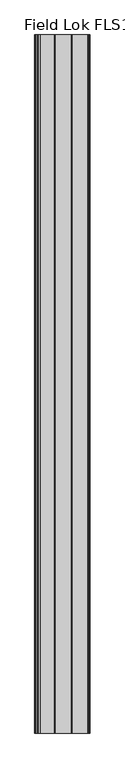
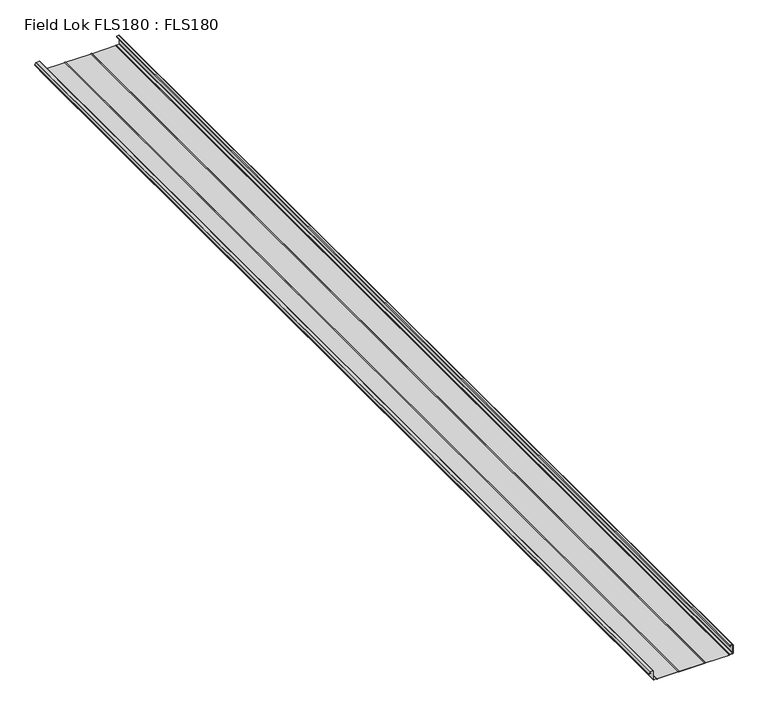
"""IFC4 building model written with IfcOpenShell, lengths in millimetres: proxy geometry, Field Lok FLS180 : FLS180."""

from ifc_helpers import new_model, si_unit, frame, origin, place, context, project, spatial, polyline, circle_curve, source, transform, mapped, element, save
from ifc_brep_helpers import plane_surface, cylinder_surface, revolved_surface, advanced_brep


def field_lok_fls180_fls180_1863bc29(model_context):
    return source(origin(), model_context, "Body", "AdvancedBrep", [
        advanced_brep(
        [(13.2744355, 1524.0, 48.2142317), (3.0357053, 1524.0, 43.8681486), (0.2209136, 1524.0, 46.8343201), (6.1927473, 1524.0, 59.0783936), (6.9061651, 1524.0, 59.5241865), (25.9087681, 1524.0, 59.5241865), (27.2978306, 1524.0, 58.135124), (27.2978306, 1524.0, 4.1479031), (27.8931431, 1524.0, 3.5525906), (45.6576863, 1524.0, 3.5525906), (46.6241296, 1524.0, 3.1522766), (48.9353249, 1524.0, 0.8410814), (170.5910838, 1524.0, 0.8410814), (177.8354735, 1524.0, 0.8410814), (320.9824289, 1524.0, 0.8410814), (328.2268187, 1524.0, 0.8410814), (461.9296726, 1524.0, 0.8410814), (464.1577379, 1524.0, 3.0691467), (465.1241812, 1524.0, 3.4694606), (481.0743032, 1524.0, 3.4694606), (484.2225216, 1524.0, 6.5567881), (484.2225216, 1524.0, 54.0982109), (482.0987707, 1524.0, 56.1746305), (470.5314259, 1524.0, 56.2219618), (468.8091061, 1524.0, 49.7941766), (468.0424025, 1524.0, 49.9996143), (469.9223601, 1524.0, 57.0157118), (482.0987707, 1524.0, 57.0157118), (485.0162716, 1524.0, 54.0982109), (485.0162716, 1524.0, 6.5494722), (481.0743032, 1524.0, 2.6757106), (464.9537705, 1524.0, 2.6757106), (462.6783738, 1524.0, 0.4003139), (461.7119305, 1524.0, 0.0), (327.7243243, 1524.0, 0.0), (321.4849233, 1524.0, 0.0), (177.3329792, 1524.0, 0.0), (171.0935781, 1524.0, 0.0), (49.1623061, 1524.0, 0.0), (48.1800906, 1524.0, 0.406847), (45.828097, 1524.0, 2.7588406), (27.8931431, 1524.0, 2.7588406), (26.5040806, 1524.0, 4.1479031), (26.5040806, 1524.0, 58.135124), (25.9087681, 1524.0, 58.7304365), (6.9061651, 1524.0, 58.7304365), (0.9343314, 1524.0, 46.486363), (2.7255625, 1524.0, 44.5987993), (12.87458, 1524.0, 48.9068017), (13.2744355, -4572.0, 48.2142317), (12.87458, -4572.0, 48.9068017), (2.7255625, -4572.0, 44.5987993), (0.9343314, -4572.0, 46.486363), (6.9061651, -4572.0, 58.7304365), (25.9087681, -4572.0, 58.7304365), (26.5040806, -4572.0, 58.135124), (26.5040806, -4572.0, 4.1479031), (27.8931431, -4572.0, 2.7588406), (45.828097, -4572.0, 2.7588406), (48.1800906, -4572.0, 0.406847), (49.1623061, -4572.0, 0.0), (171.0935781, -4572.0, 0.0), (177.3329792, -4572.0, 0.0), (321.4849233, -4572.0, 0.0), (327.7243243, -4572.0, 0.0), (461.7119305, -4572.0, 0.0), (462.6783738, -4572.0, 0.4003139), (464.9537705, -4572.0, 2.6757106), (481.0743032, -4572.0, 2.6757106), (485.0162716, -4572.0, 6.5494722), (485.0162716, -4572.0, 54.0982109), (482.0987707, -4572.0, 57.0157118), (469.9223601, -4572.0, 57.0157118), (468.0424025, -4572.0, 49.9996143), (468.8091061, -4572.0, 49.7941766), (470.5314259, -4572.0, 56.2219618), (482.0987707, -4572.0, 56.2219618), (484.1751903, -4572.0, 54.0982109), (484.2225216, -4572.0, 6.5567881), (481.0743032, -4572.0, 3.4694606), (465.1241812, -4572.0, 3.4694606), (464.1577379, -4572.0, 3.0691467), (461.9296726, -4572.0, 0.8410814), (328.2268187, -4572.0, 0.8410814), (320.9824289, -4572.0, 0.8410814), (177.8354735, -4572.0, 0.8410814), (170.5910838, -4572.0, 0.8410814), (48.9353249, -4572.0, 0.8410814), (46.6241296, -4572.0, 3.1522766), (45.6576863, -4572.0, 3.5525906), (27.8931431, -4572.0, 3.5525906), (27.2978306, -4572.0, 4.1479031), (27.2978306, -4572.0, 58.135124), (25.9087681, -4572.0, 59.5241865), (6.9061651, -4572.0, 59.5241865), (6.1927473, -4572.0, 59.0783936), (0.2209136, -4572.0, 46.8343201), (3.0357053, -4572.0, 43.8681486)],
        [
            (0, 1),
            (1, 2, circle_curve(frame((2.1828125, 1524.0, 45.8774381), z_axis=(0.0, 1.0, 0.0), x_axis=(1.0, 0.0, 0.0)), 2.1828125)),
            (2, 3),
            (3, 4, circle_curve(frame((6.9061651, 1524.0, 58.7304365), z_axis=(0.0, 1.0, 0.0), x_axis=(1.0, 0.0, 0.0)), 0.79375)),
            (4, 5),
            (5, 6, circle_curve(frame((25.9087681, 1524.0, 58.135124), z_axis=(0.0, 1.0, 0.0), x_axis=(1.0, 0.0, 0.0)), 1.3890625)),
            (6, 7),
            (7, 8, circle_curve(frame((27.8931431, 1524.0, 4.1479031), z_axis=(0.0, -1.0, 0.0), x_axis=(1.0, 0.0, 0.0)), 0.5953125)),
            (8, 9),
            (9, 10, circle_curve(frame((45.6576863, 1524.0, 2.1858334), z_axis=(0.0, 1.0, 0.0), x_axis=(1.0, 0.0, 0.0)), 1.3667572)),
            (10, 11),
            (11, 12),
            (12, 13, circle_curve(frame((174.2132786, 1524.0, -1.0449846), z_axis=(0.0, 1.0, 0.0), x_axis=(1.0, 0.0, 0.0)), 4.0838145)),
            (13, 14),
            (14, 15, circle_curve(frame((324.6046238, 1524.0, -1.0449846), z_axis=(0.0, 1.0, 0.0), x_axis=(1.0, 0.0, 0.0)), 4.0838145)),
            (15, 16),
            (16, 17),
            (17, 18, circle_curve(frame((465.1241812, 1524.0, 2.1027034), z_axis=(0.0, 1.0, 0.0), x_axis=(1.0, 0.0, 0.0)), 1.3667572)),
            (18, 19),
            (19, 20, circle_curve(frame((481.0743032, 1524.0, 6.6182795), z_axis=(0.0, -1.0, 0.0), x_axis=(1.0, 0.0, 0.0)), 3.1488189)),
            (20, 21),
            (21, 22, circle_curve(frame((482.0987707, 1524.0, 54.0982109), z_axis=(0.0, -1.0, 0.0), x_axis=(1.0, 0.0, 0.0)), 2.0764196)),
            (22, 23),
            (23, 24),
            (24, 25),
            (25, 26),
            (26, 27),
            (27, 28, circle_curve(frame((482.0987707, 1524.0, 54.0982109), z_axis=(0.0, 1.0, 0.0), x_axis=(1.0, 0.0, 0.0)), 2.917501)),
            (28, 29),
            (29, 30, circle_curve(frame((481.0743032, 1524.0, 6.6182795), z_axis=(0.0, 1.0, 0.0), x_axis=(1.0, 0.0, 0.0)), 3.9425689)),
            (30, 31),
            (31, 32),
            (32, 33, circle_curve(frame((461.7119305, 1524.0, 1.3667572), z_axis=(0.0, 1.0, 0.0), x_axis=(1.0, 0.0, 0.0)), 1.3667572)),
            (33, 34),
            (34, 35, circle_curve(frame((324.6046238, 1524.0, -1.0449846), z_axis=(0.0, -1.0, 0.0), x_axis=(1.0, 0.0, 0.0)), 3.2900645)),
            (35, 36),
            (36, 37, circle_curve(frame((174.2132786, 1524.0, -1.0449846), z_axis=(0.0, -1.0, 0.0), x_axis=(1.0, 0.0, 0.0)), 3.2900645)),
            (37, 38),
            (38, 39, circle_curve(frame((49.1623061, 1524.0, 1.3890625), z_axis=(0.0, 1.0, 0.0), x_axis=(1.0, 0.0, 0.0)), 1.3890625)),
            (39, 40),
            (40, 41),
            (41, 42, circle_curve(frame((27.8931431, 1524.0, 4.1479031), z_axis=(0.0, 1.0, 0.0), x_axis=(1.0, 0.0, 0.0)), 1.3890625)),
            (42, 43),
            (43, 44, circle_curve(frame((25.9087681, 1524.0, 58.135124), z_axis=(0.0, -1.0, 0.0), x_axis=(1.0, 0.0, 0.0)), 0.5953125)),
            (44, 45),
            (45, 46),
            (46, 47, circle_curve(frame((2.1828125, 1524.0, 45.8774381), z_axis=(0.0, -1.0, 0.0), x_axis=(1.0, 0.0, 0.0)), 1.3890625)),
            (47, 48),
            (48, 0),
            (49, 50),
            (50, 51),
            (51, 52, circle_curve(frame((2.1828125, -4572.0, 45.8774381), z_axis=(0.0, 1.0, 0.0), x_axis=(1.0, 0.0, 0.0)), 1.3890625)),
            (52, 53),
            (53, 54),
            (54, 55, circle_curve(frame((25.9087681, -4572.0, 58.135124), z_axis=(0.0, 1.0, 0.0), x_axis=(1.0, 0.0, 0.0)), 0.5953125)),
            (55, 56),
            (56, 57, circle_curve(frame((27.8931431, -4572.0, 4.1479031), z_axis=(0.0, -1.0, 0.0), x_axis=(1.0, 0.0, 0.0)), 1.3890625)),
            (57, 58),
            (58, 59),
            (59, 60, circle_curve(frame((49.1623061, -4572.0, 1.3890625), z_axis=(0.0, -1.0, 0.0), x_axis=(1.0, 0.0, 0.0)), 1.3890625)),
            (60, 61),
            (61, 62, circle_curve(frame((174.2132786, -4572.0, -1.0449846), z_axis=(0.0, 1.0, 0.0), x_axis=(1.0, 0.0, 0.0)), 3.2900645)),
            (62, 63),
            (63, 64, circle_curve(frame((324.6046238, -4572.0, -1.0449846), z_axis=(0.0, 1.0, 0.0), x_axis=(1.0, 0.0, 0.0)), 3.2900645)),
            (64, 65),
            (65, 66, circle_curve(frame((461.7119305, -4572.0, 1.3667572), z_axis=(0.0, -1.0, 0.0), x_axis=(1.0, 0.0, 0.0)), 1.3667572)),
            (66, 67),
            (67, 68),
            (68, 69, circle_curve(frame((481.0743032, -4572.0, 6.6182795), z_axis=(0.0, -1.0, 0.0), x_axis=(1.0, 0.0, 0.0)), 3.9425689)),
            (69, 70),
            (70, 71, circle_curve(frame((482.0987707, -4572.0, 54.0982109), z_axis=(0.0, -1.0, 0.0), x_axis=(1.0, 0.0, 0.0)), 2.917501)),
            (71, 72),
            (72, 73),
            (73, 74),
            (74, 75),
            (75, 76),
            (76, 77, circle_curve(frame((482.0987707, -4572.0, 54.0982109), z_axis=(0.0, 1.0, 0.0), x_axis=(1.0, 0.0, 0.0)), 2.0764196)),
            (77, 78),
            (78, 79, circle_curve(frame((481.0743032, -4572.0, 6.6182795), z_axis=(0.0, 1.0, 0.0), x_axis=(1.0, 0.0, 0.0)), 3.1488189)),
            (79, 80),
            (80, 81, circle_curve(frame((465.1241812, -4572.0, 2.1027034), z_axis=(0.0, -1.0, 0.0), x_axis=(1.0, 0.0, 0.0)), 1.3667572)),
            (81, 82),
            (82, 83),
            (83, 84, circle_curve(frame((324.6046238, -4572.0, -1.0449846), z_axis=(0.0, -1.0, 0.0), x_axis=(1.0, 0.0, 0.0)), 4.0838145)),
            (84, 85),
            (85, 86, circle_curve(frame((174.2132786, -4572.0, -1.0449846), z_axis=(0.0, -1.0, 0.0), x_axis=(1.0, 0.0, 0.0)), 4.0838145)),
            (86, 87),
            (87, 88),
            (88, 89, circle_curve(frame((45.6576863, -4572.0, 2.1858334), z_axis=(0.0, -1.0, 0.0), x_axis=(1.0, 0.0, 0.0)), 1.3667572)),
            (89, 90),
            (90, 91, circle_curve(frame((27.8931431, -4572.0, 4.1479031), z_axis=(0.0, 1.0, 0.0), x_axis=(1.0, 0.0, 0.0)), 0.5953125)),
            (91, 92),
            (92, 93, circle_curve(frame((25.9087681, -4572.0, 58.135124), z_axis=(0.0, -1.0, 0.0), x_axis=(1.0, 0.0, 0.0)), 1.3890625)),
            (93, 94),
            (94, 95, circle_curve(frame((6.9061651, -4572.0, 58.7304365), z_axis=(0.0, -1.0, 0.0), x_axis=(1.0, 0.0, 0.0)), 0.79375)),
            (95, 96),
            (96, 97, circle_curve(frame((2.1828125, -4572.0, 45.8774381), z_axis=(0.0, -1.0, 0.0), x_axis=(1.0, 0.0, 0.0)), 2.1828125)),
            (97, 49),
            (0, 49),
            (97, 1),
            (96, 2),
            (95, 3),
            (94, 4),
            (93, 5),
            (92, 6),
            (91, 7),
            (90, 8),
            (89, 9),
            (88, 10),
            (87, 11),
            (86, 12),
            (85, 13),
            (84, 14),
            (83, 15),
            (82, 16),
            (81, 17),
            (80, 18),
            (79, 19),
            (78, 20),
            (77, 21),
            (76, 22),
            (75, 23),
            (74, 24),
            (73, 25),
            (72, 26),
            (71, 27),
            (70, 28),
            (69, 29),
            (68, 30),
            (67, 31),
            (66, 32),
            (65, 33),
            (64, 34),
            (63, 35),
            (62, 36),
            (61, 37),
            (60, 38),
            (59, 39),
            (58, 40),
            (57, 41),
            (56, 42),
            (55, 43),
            (54, 44),
            (53, 45),
            (52, 46),
            (51, 47),
            (50, 48),
        ],
        [
            plane_surface(frame((0.0, 1524.0, 0.0), z_axis=(0.0, 1.0, 0.0), x_axis=(0.0, 0.0, 1.0))),
            plane_surface(frame((0.0, -4572.0, 0.0), z_axis=(0.0, -1.0, 0.0), x_axis=(0.0, 0.0, 1.0))),
            plane_surface(frame((13.2744355, 1524.0, 48.2142317), z_axis=(0.39073112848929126, 0.0, -0.9205048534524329), x_axis=(0.0, -1.0, 0.0))),
            cylinder_surface(frame((2.1828125, 1524.0, 45.8774381), z_axis=(0.0, 1.0, 0.0), x_axis=(1.0, 0.0, 0.0)), 2.1828125),
            plane_surface(frame((0.2209136, 1524.0, 46.8343201), z_axis=(-0.8987940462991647, 0.0, 0.4383711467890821), x_axis=(0.0, -1.0, 0.0))),
            cylinder_surface(frame((6.9061651, 1524.0, 58.7304365), z_axis=(0.0, 1.0, 0.0), x_axis=(1.0, 0.0, 0.0)), 0.79375),
            plane_surface(frame((6.9061651, 1524.0, 59.5241865), z_axis=(0.0, 0.0, 1.0), x_axis=(0.0, -1.0, 0.0))),
            cylinder_surface(frame((25.9087681, 1524.0, 58.135124), z_axis=(0.0, 1.0, 0.0), x_axis=(1.0, 0.0, 0.0)), 1.3890625),
            plane_surface(frame((27.2978306, 1524.0, 58.135124), z_axis=(1.0, 0.0, 0.0), x_axis=(0.0, -1.0, 0.0))),
            revolved_surface(polyline([(28.488455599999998, -4572.0, 4.1479031), (28.488455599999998, 1524.0, 4.1479031)]), (27.8931431, 1524.0, 4.1479031), (0.0, -1.0, 0.0)),
            plane_surface(frame((27.8931431, 1524.0, 3.5525906), z_axis=(0.0, 0.0, 1.0), x_axis=(0.0, -1.0, 0.0))),
            cylinder_surface(frame((45.6576863, 1524.0, 2.1858334), z_axis=(0.0, 1.0, 0.0), x_axis=(1.0, 0.0, 0.0)), 1.3667572),
            plane_surface(frame((46.6241296, 1524.0, 3.1522766), z_axis=(0.7071067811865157, 0.0, 0.7071067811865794), x_axis=(0.0, -1.0, 0.0))),
            plane_surface(frame((48.9353249, 1524.0, 0.8410814), z_axis=(0.0, 0.0, 1.0), x_axis=(0.0, -1.0, 0.0))),
            cylinder_surface(frame((174.2132786, 1524.0, -1.0449846), z_axis=(0.0, 1.0, 0.0), x_axis=(1.0, 0.0, 0.0)), 4.0838145),
            plane_surface(frame((177.8354735, 1524.0, 0.8410814), z_axis=(0.0, 0.0, 1.0), x_axis=(0.0, -1.0, 0.0))),
            cylinder_surface(frame((324.6046238, 1524.0, -1.0449846), z_axis=(0.0, 1.0, 0.0), x_axis=(1.0, 0.0, 0.0)), 4.0838145),
            plane_surface(frame((328.2268187, 1524.0, 0.8410814), z_axis=(0.0, 0.0, 1.0), x_axis=(0.0, -1.0, 0.0))),
            plane_surface(frame((461.9296726, 1524.0, 0.8410814), z_axis=(-0.7071067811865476, 0.0, 0.7071067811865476), x_axis=(0.0, -1.0, 0.0))),
            cylinder_surface(frame((465.1241812, 1524.0, 2.1027034), z_axis=(0.0, 1.0, 0.0), x_axis=(1.0, 0.0, 0.0)), 1.3667572),
            plane_surface(frame((465.1241812, 1524.0, 3.4694606), z_axis=(0.0, 0.0, 1.0), x_axis=(0.0, -1.0, 0.0))),
            revolved_surface(polyline([(484.22312209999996, -4572.0, 6.6182795), (484.22312209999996, 1524.0, 6.6182795)]), (481.0743032, 1524.0, 6.6182795), (0.0, -1.0, 0.0)),
            plane_surface(frame((484.2225216, 1524.0, 6.5567881), z_axis=(-1.0, 0.0, 0.0), x_axis=(0.0, -1.0, 0.0))),
            revolved_surface(polyline([(484.1751903, -4572.0, 54.0982109), (484.1751903, 1524.0, 54.0982109)]), (482.0987707, 1524.0, 54.0982109), (0.0, -1.0, 0.0)),
            plane_surface(frame((482.0987707, 1524.0, 56.2219618), z_axis=(0.0, 0.0, -1.0), x_axis=(0.0, -1.0, 0.0))),
            plane_surface(frame((470.5314259, 1524.0, 56.2219618), z_axis=(0.9659258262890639, 0.0, -0.25881904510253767), x_axis=(0.0, -1.0, 0.0))),
            plane_surface(frame((468.8091061, 1524.0, 49.7941766), z_axis=(-0.2588190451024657, 0.0, -0.9659258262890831), x_axis=(0.0, -1.0, 0.0))),
            plane_surface(frame((468.0424025, 1524.0, 49.9996143), z_axis=(-0.9659258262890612, 0.0, 0.25881904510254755), x_axis=(0.0, -1.0, 0.0))),
            plane_surface(frame((469.9223601, 1524.0, 57.0157118), z_axis=(0.0, 0.0, 1.0), x_axis=(0.0, -1.0, 0.0))),
            cylinder_surface(frame((482.0987707, 1524.0, 54.0982109), z_axis=(0.0, 1.0, 0.0), x_axis=(1.0, 0.0, 0.0)), 2.917501),
            plane_surface(frame((485.0162716, 1524.0, 54.0982109), z_axis=(1.0, 0.0, 0.0), x_axis=(0.0, -1.0, 0.0))),
            cylinder_surface(frame((481.0743032, 1524.0, 6.6182795), z_axis=(0.0, 1.0, 0.0), x_axis=(1.0, 0.0, 0.0)), 3.9425689),
            plane_surface(frame((481.0743032, 1524.0, 2.6757106), z_axis=(0.0, 0.0, -1.0), x_axis=(0.0, -1.0, 0.0))),
            plane_surface(frame((464.9537705, 1524.0, 2.6757106), z_axis=(0.7071067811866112, 0.0, -0.7071067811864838), x_axis=(0.0, -1.0, 0.0))),
            cylinder_surface(frame((461.7119305, 1524.0, 1.3667572), z_axis=(0.0, 1.0, 0.0), x_axis=(1.0, 0.0, 0.0)), 1.3667572),
            plane_surface(frame((461.7119305, 1524.0, 0.0), z_axis=(0.0, 0.0, -1.0), x_axis=(0.0, -1.0, 0.0))),
            revolved_surface(polyline([(327.89468830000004, -4572.0, -1.0449846), (327.89468830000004, 1524.0, -1.0449846)]), (324.6046238, 1524.0, -1.0449846), (0.0, -1.0, 0.0)),
            plane_surface(frame((321.4849233, 1524.0, 0.0), z_axis=(0.0, 0.0, -1.0), x_axis=(0.0, -1.0, 0.0))),
            revolved_surface(polyline([(177.5033431, -4572.0, -1.0449846), (177.5033431, 1524.0, -1.0449846)]), (174.2132786, 1524.0, -1.0449846), (0.0, -1.0, 0.0)),
            plane_surface(frame((171.0935781, 1524.0, 0.0), z_axis=(0.0, 0.0, -1.0), x_axis=(0.0, -1.0, 0.0))),
            cylinder_surface(frame((49.1623061, 1524.0, 1.3890625), z_axis=(0.0, 1.0, 0.0), x_axis=(1.0, 0.0, 0.0)), 1.3890625),
            plane_surface(frame((48.1800906, 1524.0, 0.406847), z_axis=(-0.7071067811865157, 0.0, -0.7071067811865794), x_axis=(0.0, -1.0, 0.0))),
            plane_surface(frame((45.828097, 1524.0, 2.7588406), z_axis=(0.0, 0.0, -1.0), x_axis=(0.0, -1.0, 0.0))),
            cylinder_surface(frame((27.8931431, 1524.0, 4.1479031), z_axis=(0.0, 1.0, 0.0), x_axis=(1.0, 0.0, 0.0)), 1.3890625),
            plane_surface(frame((26.5040806, 1524.0, 4.1479031), z_axis=(-1.0, 0.0, 0.0), x_axis=(0.0, -1.0, 0.0))),
            revolved_surface(polyline([(26.504080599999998, -4572.0, 58.135124), (26.504080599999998, 1524.0, 58.135124)]), (25.9087681, 1524.0, 58.135124), (0.0, -1.0, 0.0)),
            plane_surface(frame((25.9087681, 1524.0, 58.7304365), z_axis=(0.0, 0.0, -1.0), x_axis=(0.0, -1.0, 0.0))),
            plane_surface(frame((6.9061651, 1524.0, 58.7304365), z_axis=(0.8987940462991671, 0.0, -0.4383711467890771), x_axis=(0.0, -1.0, 0.0))),
            revolved_surface(polyline([(3.571875, -4572.0, 45.8774381), (3.571875, 1524.0, 45.8774381)]), (2.1828125, 1524.0, 45.8774381), (0.0, -1.0, 0.0)),
            plane_surface(frame((2.7255625, 1524.0, 44.5987993), z_axis=(-0.39073112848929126, 0.0, 0.9205048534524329), x_axis=(0.0, -1.0, 0.0))),
            plane_surface(frame((12.87458, 1524.0, 48.9068017), z_axis=(0.8660254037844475, 0.0, 0.4999999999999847), x_axis=(0.0, -1.0, 0.0))),
        ],
        [
            (0, [[1, 2, 3, 4, 5, 6, 7, 8, 9, 10, 11, 12, 13, 14, 15, 16, 17, 18, 19, 20, 21, 22, 23, 24, 25, 26, 27, 28, 29, 30, 31, 32, 33, 34, 35, 36, 37, 38, 39, 40, 41, 42, 43, 44, 45, 46, 47, 48, 49]]),
            (1, [[50, 51, 52, 53, 54, 55, 56, 57, 58, 59, 60, 61, 62, 63, 64, 65, 66, 67, 68, 69, 70, 71, 72, 73, 74, 75, 76, 77, 78, 79, 80, 81, 82, 83, 84, 85, 86, 87, 88, 89, 90, 91, 92, 93, 94, 95, 96, 97, 98]]),
            (2, [[-1, 99, -98, 100]]),
            (3, [[-2, -100, -97, 101]]),
            (4, [[-3, -101, -96, 102]]),
            (5, [[-4, -102, -95, 103]]),
            (6, [[-5, -103, -94, 104]]),
            (7, [[-6, -104, -93, 105]]),
            (8, [[-7, -105, -92, 106]]),
            (9, [[-8, -106, -91, 107]]),
            (10, [[-9, -107, -90, 108]]),
            (11, [[-10, -108, -89, 109]]),
            (12, [[-11, -109, -88, 110]]),
            (13, [[-12, -110, -87, 111]]),
            (14, [[-13, -111, -86, 112]]),
            (15, [[-14, -112, -85, 113]]),
            (16, [[-15, -113, -84, 114]]),
            (17, [[-16, -114, -83, 115]]),
            (18, [[-17, -115, -82, 116]]),
            (19, [[-18, -116, -81, 117]]),
            (20, [[-19, -117, -80, 118]]),
            (21, [[-20, -118, -79, 119]]),
            (22, [[-21, -119, -78, 120]]),
            (23, [[-22, -120, -77, 121]]),
            (24, [[-23, -121, -76, 122]]),
            (25, [[-24, -122, -75, 123]]),
            (26, [[-25, -123, -74, 124]]),
            (27, [[-26, -124, -73, 125]]),
            (28, [[-27, -125, -72, 126]]),
            (29, [[-28, -126, -71, 127]]),
            (30, [[-29, -127, -70, 128]]),
            (31, [[-30, -128, -69, 129]]),
            (32, [[-31, -129, -68, 130]]),
            (33, [[-32, -130, -67, 131]]),
            (34, [[-33, -131, -66, 132]]),
            (35, [[-34, -132, -65, 133]]),
            (36, [[-35, -133, -64, 134]]),
            (37, [[-36, -134, -63, 135]]),
            (38, [[-37, -135, -62, 136]]),
            (39, [[-38, -136, -61, 137]]),
            (40, [[-39, -137, -60, 138]]),
            (41, [[-40, -138, -59, 139]]),
            (42, [[-41, -139, -58, 140]]),
            (43, [[-42, -140, -57, 141]]),
            (44, [[-43, -141, -56, 142]]),
            (45, [[-44, -142, -55, 143]]),
            (46, [[-45, -143, -54, 144]]),
            (47, [[-46, -144, -53, 145]]),
            (48, [[-47, -145, -52, 146]]),
            (49, [[-48, -146, -51, 147]]),
            (50, [[-49, -147, -50, -99]]),
        ],
    ),
    ])


if __name__ == "__main__":
    model = new_model("IFC4")
    model_context = context("Model", 3, world=origin())
    ifc_project = project(units=[si_unit("LENGTHUNIT", "METRE", prefix="MILLI")], contexts=[model_context])
    site = spatial("IfcSite", under=ifc_project)
    building = spatial("IfcBuilding", under=site)
    placement = place(None, origin())
    field_lok_fls180_fls180_shape = field_lok_fls180_fls180_1863bc29(model_context)
    element("IfcBuildingElementProxy", 1, Name="Field Lok FLS180 : FLS180", ObjectType="Field Lok FLS180 : FLS180", at=placement, inside=building, context=model_context, shape_type="MappedRepresentation", body=[
        mapped(field_lok_fls180_fls180_shape, transform((0.0, 0.0, 0.0), x_axis=(1.0, 0.0, 0.0), y_axis=(0.0, 1.0, 0.0), z_axis=(0.0, 0.0, 1.0))),
    ])
    save(model, "model.ifc")
